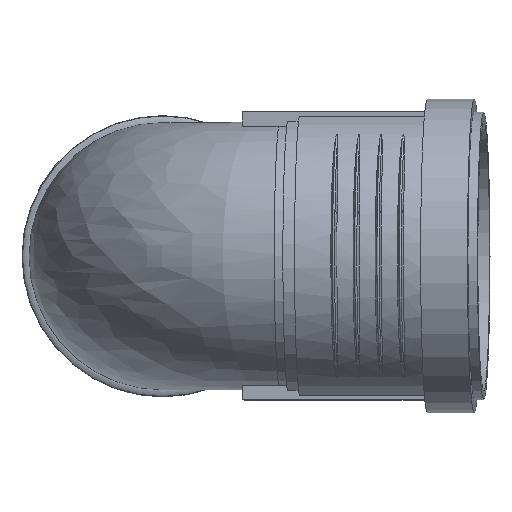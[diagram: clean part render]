
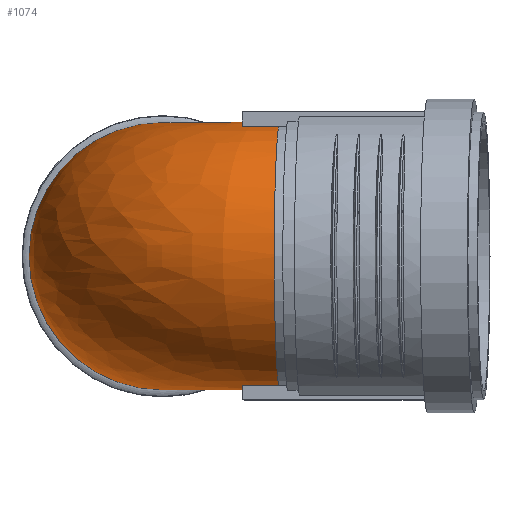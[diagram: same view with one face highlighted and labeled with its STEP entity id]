
A CAD part, top view. The second image highlights one B-rep face of the part: STEP entity #1074.
In plain terms, the highlighted free-form (B-spline) face has degree [2, 2] with [9, 9] control points.
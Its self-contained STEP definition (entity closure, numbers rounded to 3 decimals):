
#142=(
BOUNDED_SURFACE()
B_SPLINE_SURFACE(2,2,((#1588,#1589,#1590,#1591,#1592,#1593,#1594,#1595,
#1596),(#1597,#1598,#1599,#1600,#1601,#1602,#1603,#1604,#1605),(#1606,#1607,
#1608,#1609,#1610,#1611,#1612,#1613,#1614),(#1615,#1616,#1617,#1618,#1619,
#1620,#1621,#1622,#1623),(#1624,#1625,#1626,#1627,#1628,#1629,#1630,#1631,
#1632),(#1633,#1634,#1635,#1636,#1637,#1638,#1639,#1640,#1641),(#1642,#1643,
#1644,#1645,#1646,#1647,#1648,#1649,#1650),(#1651,#1652,#1653,#1654,#1655,
#1656,#1657,#1658,#1659),(#1660,#1661,#1662,#1663,#1664,#1665,#1666,#1667,
#1668)),.UNSPECIFIED.,.T.,.T.,.F.)
B_SPLINE_SURFACE_WITH_KNOTS((3,2,2,2,3),(3,2,2,2,3),(-3.142,
-1.571,0.,1.571,3.142),(-3.142,
-1.571,0.,1.571,3.142),.UNSPECIFIED.)
GEOMETRIC_REPRESENTATION_ITEM()
RATIONAL_B_SPLINE_SURFACE(((1.,0.707,1.,0.707,1.,
0.707,1.,0.707,1.),(0.707,0.5,0.707,
0.5,0.707,0.5,0.707,0.5,0.707),(1.,
0.707,1.,0.707,1.,0.707,1.,0.707,
1.),(0.707,0.5,0.707,0.5,
0.707,0.5,0.707,0.5,
0.707),(1.,0.707,1.,0.707,1.,0.707,
1.,0.707,1.),(0.707,0.5,0.707,
0.5,0.707,0.5,0.707,
0.5,0.707),(1.,0.707,1.,0.707,
1.,0.707,1.,0.707,1.),(0.707,0.5,0.707,
0.5,0.707,0.5,0.707,0.5,0.707),(1.,
0.707,1.,0.707,1.,0.707,1.,0.707,
1.)))
REPRESENTATION_ITEM($)
SURFACE()
);
#260=FACE_OUTER_BOUND($,#331,.T.);
#331=EDGE_LOOP($,(#734,#735));
#425=CIRCLE($,#1158,45.1);
#426=CIRCLE($,#1159,45.1);
#480=VERTEX_POINT($,#1586);
#586=EDGE_CURVE($,#480,#480,#425,.T.);
#587=EDGE_CURVE($,#480,#480,#426,.T.);
#734=ORIENTED_EDGE($,*,*,#586,.T.);
#735=ORIENTED_EDGE($,*,*,#587,.F.);
#1074=ADVANCED_FACE($,(#260),#142,.F.);
#1158=AXIS2_PLACEMENT_3D($,#1587,#1307,#1308);
#1159=AXIS2_PLACEMENT_3D($,#1669,#1309,#1310);
#1307=DIRECTION('center_axis',(-0.999,0.,-0.044));
#1308=DIRECTION('ref_axis',(-0.044,0.,0.999));
#1309=DIRECTION('center_axis',(0.,0.,-1.));
#1310=DIRECTION('ref_axis',(-1.,0.,0.));
#1586=CARTESIAN_POINT('',(45.1,0.,66.23));
#1587=CARTESIAN_POINT('Origin',(43.133,0.,111.287));
#1588=CARTESIAN_POINT('Ctrl Pts',(45.1,0.,66.23));
#1589=CARTESIAN_POINT('Ctrl Pts',(45.1,0.,66.23));
#1590=CARTESIAN_POINT('Ctrl Pts',(45.1,0.,66.23));
#1591=CARTESIAN_POINT('Ctrl Pts',(45.1,0.,66.23));
#1592=CARTESIAN_POINT('Ctrl Pts',(45.1,0.,66.23));
#1593=CARTESIAN_POINT('Ctrl Pts',(45.1,0.,66.23));
#1594=CARTESIAN_POINT('Ctrl Pts',(45.1,0.,66.23));
#1595=CARTESIAN_POINT('Ctrl Pts',(45.1,0.,66.23));
#1596=CARTESIAN_POINT('Ctrl Pts',(45.1,0.,66.23));
#1597=CARTESIAN_POINT('Ctrl Pts',(45.1,-45.1,66.23));
#1598=CARTESIAN_POINT('Ctrl Pts',(45.1,-45.1,66.23));
#1599=CARTESIAN_POINT('Ctrl Pts',(45.1,-45.1,66.23));
#1600=CARTESIAN_POINT('Ctrl Pts',(45.1,-45.1,66.23));
#1601=CARTESIAN_POINT('Ctrl Pts',(45.1,-45.1,66.23));
#1602=CARTESIAN_POINT('Ctrl Pts',(45.1,-45.1,66.23));
#1603=CARTESIAN_POINT('Ctrl Pts',(45.1,-45.1,66.23));
#1604=CARTESIAN_POINT('Ctrl Pts',(45.1,-45.1,66.23));
#1605=CARTESIAN_POINT('Ctrl Pts',(45.1,-45.1,66.23));
#1606=CARTESIAN_POINT('Ctrl Pts',(45.1,-45.1,21.13));
#1607=CARTESIAN_POINT('Ctrl Pts',(0.,-45.1,21.13));
#1608=CARTESIAN_POINT('Ctrl Pts',(0.,-45.1,66.23));
#1609=CARTESIAN_POINT('Ctrl Pts',(0.,-45.1,111.33));
#1610=CARTESIAN_POINT('Ctrl Pts',(45.1,-45.1,111.33));
#1611=CARTESIAN_POINT('Ctrl Pts',(90.2,-45.1,111.33));
#1612=CARTESIAN_POINT('Ctrl Pts',(90.2,-45.1,66.23));
#1613=CARTESIAN_POINT('Ctrl Pts',(90.2,-45.1,21.13));
#1614=CARTESIAN_POINT('Ctrl Pts',(45.1,-45.1,21.13));
#1615=CARTESIAN_POINT('Ctrl Pts',(45.1,-45.1,-23.97));
#1616=CARTESIAN_POINT('Ctrl Pts',(-45.1,-45.1,-23.97));
#1617=CARTESIAN_POINT('Ctrl Pts',(-45.1,-45.1,66.23));
#1618=CARTESIAN_POINT('Ctrl Pts',(-45.1,-45.1,156.43));
#1619=CARTESIAN_POINT('Ctrl Pts',(45.1,-45.1,156.43));
#1620=CARTESIAN_POINT('Ctrl Pts',(135.3,-45.1,156.43));
#1621=CARTESIAN_POINT('Ctrl Pts',(135.3,-45.1,66.23));
#1622=CARTESIAN_POINT('Ctrl Pts',(135.3,-45.1,-23.97));
#1623=CARTESIAN_POINT('Ctrl Pts',(45.1,-45.1,-23.97));
#1624=CARTESIAN_POINT('Ctrl Pts',(45.1,0.,-23.97));
#1625=CARTESIAN_POINT('Ctrl Pts',(-45.1,0.,-23.97));
#1626=CARTESIAN_POINT('Ctrl Pts',(-45.1,0.,66.23));
#1627=CARTESIAN_POINT('Ctrl Pts',(-45.1,0.,156.43));
#1628=CARTESIAN_POINT('Ctrl Pts',(45.1,0.,156.43));
#1629=CARTESIAN_POINT('Ctrl Pts',(135.3,0.,156.43));
#1630=CARTESIAN_POINT('Ctrl Pts',(135.3,0.,66.23));
#1631=CARTESIAN_POINT('Ctrl Pts',(135.3,0.,-23.97));
#1632=CARTESIAN_POINT('Ctrl Pts',(45.1,0.,-23.97));
#1633=CARTESIAN_POINT('Ctrl Pts',(45.1,45.1,-23.97));
#1634=CARTESIAN_POINT('Ctrl Pts',(-45.1,45.1,-23.97));
#1635=CARTESIAN_POINT('Ctrl Pts',(-45.1,45.1,66.23));
#1636=CARTESIAN_POINT('Ctrl Pts',(-45.1,45.1,156.43));
#1637=CARTESIAN_POINT('Ctrl Pts',(45.1,45.1,156.43));
#1638=CARTESIAN_POINT('Ctrl Pts',(135.3,45.1,156.43));
#1639=CARTESIAN_POINT('Ctrl Pts',(135.3,45.1,66.23));
#1640=CARTESIAN_POINT('Ctrl Pts',(135.3,45.1,-23.97));
#1641=CARTESIAN_POINT('Ctrl Pts',(45.1,45.1,-23.97));
#1642=CARTESIAN_POINT('Ctrl Pts',(45.1,45.1,21.13));
#1643=CARTESIAN_POINT('Ctrl Pts',(0.,45.1,21.13));
#1644=CARTESIAN_POINT('Ctrl Pts',(0.,45.1,66.23));
#1645=CARTESIAN_POINT('Ctrl Pts',(0.,45.1,111.33));
#1646=CARTESIAN_POINT('Ctrl Pts',(45.1,45.1,111.33));
#1647=CARTESIAN_POINT('Ctrl Pts',(90.2,45.1,111.33));
#1648=CARTESIAN_POINT('Ctrl Pts',(90.2,45.1,66.23));
#1649=CARTESIAN_POINT('Ctrl Pts',(90.2,45.1,21.13));
#1650=CARTESIAN_POINT('Ctrl Pts',(45.1,45.1,21.13));
#1651=CARTESIAN_POINT('Ctrl Pts',(45.1,45.1,66.23));
#1652=CARTESIAN_POINT('Ctrl Pts',(45.1,45.1,66.23));
#1653=CARTESIAN_POINT('Ctrl Pts',(45.1,45.1,66.23));
#1654=CARTESIAN_POINT('Ctrl Pts',(45.1,45.1,66.23));
#1655=CARTESIAN_POINT('Ctrl Pts',(45.1,45.1,66.23));
#1656=CARTESIAN_POINT('Ctrl Pts',(45.1,45.1,66.23));
#1657=CARTESIAN_POINT('Ctrl Pts',(45.1,45.1,66.23));
#1658=CARTESIAN_POINT('Ctrl Pts',(45.1,45.1,66.23));
#1659=CARTESIAN_POINT('Ctrl Pts',(45.1,45.1,66.23));
#1660=CARTESIAN_POINT('Ctrl Pts',(45.1,0.,66.23));
#1661=CARTESIAN_POINT('Ctrl Pts',(45.1,0.,66.23));
#1662=CARTESIAN_POINT('Ctrl Pts',(45.1,0.,66.23));
#1663=CARTESIAN_POINT('Ctrl Pts',(45.1,0.,66.23));
#1664=CARTESIAN_POINT('Ctrl Pts',(45.1,0.,66.23));
#1665=CARTESIAN_POINT('Ctrl Pts',(45.1,0.,66.23));
#1666=CARTESIAN_POINT('Ctrl Pts',(45.1,0.,66.23));
#1667=CARTESIAN_POINT('Ctrl Pts',(45.1,0.,66.23));
#1668=CARTESIAN_POINT('Ctrl Pts',(45.1,0.,66.23));
#1669=CARTESIAN_POINT('Origin',(0.,0.,66.23));
